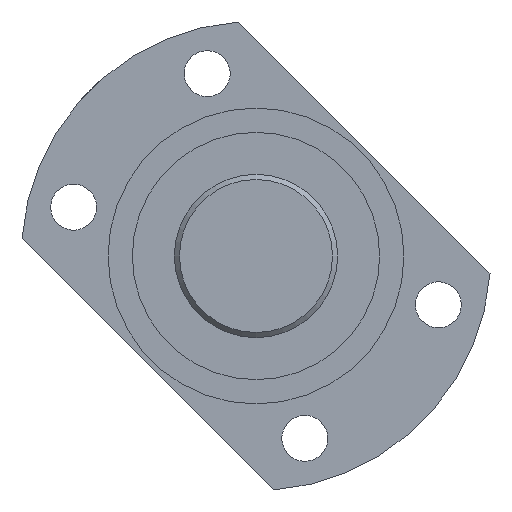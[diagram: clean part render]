
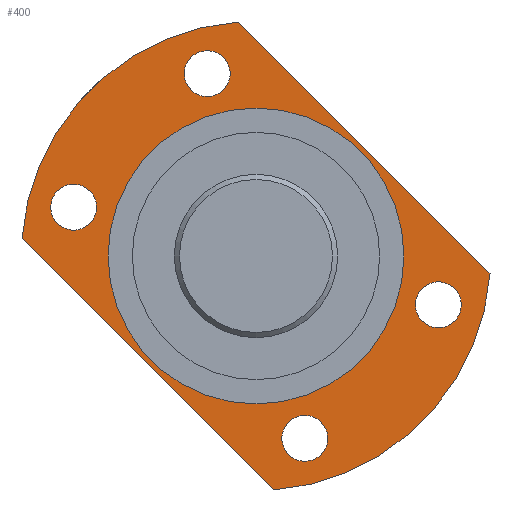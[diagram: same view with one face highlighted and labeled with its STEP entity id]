
A CAD part, left-side view. The second image highlights one B-rep face of the part: STEP entity #400.
In plain terms, the highlighted planar face has unit normal (-1, 0, 0).
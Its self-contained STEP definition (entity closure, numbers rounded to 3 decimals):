
#10 = FACE_BOUND ( 'NONE', #1527, .T. ) ;
#11 = CARTESIAN_POINT ( 'NONE',  ( 88.392, 78.542, 9.576 ) ) ;
#21 = CARTESIAN_POINT ( 'NONE',  ( 88.392, 36.408, -32.557 ) ) ;
#25 = PLANE ( 'NONE',  #1547 ) ;
#31 = VERTEX_POINT ( 'NONE', #325 ) ;
#125 = DIRECTION ( 'NONE',  ( 1., 0., 0. ) ) ;
#151 = VERTEX_POINT ( 'NONE', #766 ) ;
#152 = VERTEX_POINT ( 'NONE', #1225 ) ;
#166 = CIRCLE ( 'NONE', #216, 46. ) ;
#170 = EDGE_CURVE ( 'NONE', #152, #1557, #725, .T. ) ;
#173 = ORIENTED_EDGE ( 'NONE', *, *, #899, .T. ) ;
#216 = AXIS2_PLACEMENT_3D ( 'NONE', #244, #743, #1252 ) ;
#241 = EDGE_CURVE ( 'NONE', #729, #152, #166, .T. ) ;
#244 = CARTESIAN_POINT ( 'NONE',  ( 88.392, 42.803, 0. ) ) ;
#294 = EDGE_LOOP ( 'NONE', ( #1633 ) ) ;
#325 = CARTESIAN_POINT ( 'NONE',  ( 88.392, -3.068, -3.444 ) ) ;
#356 = DIRECTION ( 'NONE',  ( 1., 0., 0. ) ) ;
#377 = CARTESIAN_POINT ( 'NONE',  ( 88.392, 63.132, 20.329 ) ) ;
#380 = VERTEX_POINT ( 'NONE', #21 ) ;
#400 = ADVANCED_FACE ( 'NONE', ( #10, #673, #1014, #1512, #1291, #513 ), #25, .T. ) ;
#434 = EDGE_LOOP ( 'NONE', ( #927 ) ) ;
#445 = EDGE_CURVE ( 'NONE', #31, #729, #1274, .T. ) ;
#513 = FACE_BOUND ( 'NONE', #1154, .T. ) ;
#526 = CARTESIAN_POINT ( 'NONE',  ( 88.392, 81.724, 12.758 ) ) ;
#627 = CIRCLE ( 'NONE', #1031, 46. ) ;
#647 = EDGE_CURVE ( 'NONE', #982, #982, #1596, .T. ) ;
#673 = FACE_BOUND ( 'NONE', #1407, .T. ) ;
#706 = DIRECTION ( 'NONE',  ( 1., 0., 0. ) ) ;
#716 = CARTESIAN_POINT ( 'NONE',  ( 88.392, 46.247, 45.871 ) ) ;
#725 = LINE ( 'NONE', #1381, #968 ) ;
#729 = VERTEX_POINT ( 'NONE', #716 ) ;
#743 = DIRECTION ( 'NONE',  ( -1., 0., 0. ) ) ;
#766 = CARTESIAN_POINT ( 'NONE',  ( 88.392, 55.561, 38.921 ) ) ;
#769 = ORIENTED_EDGE ( 'NONE', *, *, #647, .T. ) ;
#774 = CARTESIAN_POINT ( 'NONE',  ( 88.392, 42.803, 0. ) ) ;
#782 = DIRECTION ( 'NONE',  ( -1., 0., 0. ) ) ;
#793 = EDGE_CURVE ( 'NONE', #1557, #31, #627, .T. ) ;
#826 = CIRCLE ( 'NONE', #1310, 4.5 ) ;
#863 = VECTOR ( 'NONE', #1406, 1000. ) ;
#869 = CIRCLE ( 'NONE', #1077, 4.5 ) ;
#870 = DIRECTION ( 'NONE',  ( 0., 0.707, 0.707 ) ) ;
#871 = EDGE_CURVE ( 'NONE', #1279, #1279, #869, .T. ) ;
#874 = DIRECTION ( 'NONE',  ( 0., 0.707, 0.707 ) ) ;
#881 = DIRECTION ( 'NONE',  ( 0., 0.707, 0.707 ) ) ;
#895 = AXIS2_PLACEMENT_3D ( 'NONE', #1241, #1342, #963 ) ;
#899 = EDGE_CURVE ( 'NONE', #151, #151, #1528, .T. ) ;
#927 = ORIENTED_EDGE ( 'NONE', *, *, #1168, .T. ) ;
#963 = DIRECTION ( 'NONE',  ( 0., 0., 1. ) ) ;
#968 = VECTOR ( 'NONE', #1129, 1000. ) ;
#982 = VERTEX_POINT ( 'NONE', #1480 ) ;
#1014 = FACE_BOUND ( 'NONE', #294, .T. ) ;
#1030 = CARTESIAN_POINT ( 'NONE',  ( 88.392, 41.919, 41.543 ) ) ;
#1031 = AXIS2_PLACEMENT_3D ( 'NONE', #774, #782, #881 ) ;
#1035 = CARTESIAN_POINT ( 'NONE',  ( 88.392, 7.063, -9.576 ) ) ;
#1039 = DIRECTION ( 'NONE',  ( -1., 0., 0. ) ) ;
#1077 = AXIS2_PLACEMENT_3D ( 'NONE', #11, #125, #874 ) ;
#1104 = ORIENTED_EDGE ( 'NONE', *, *, #871, .T. ) ;
#1116 = DIRECTION ( 'NONE',  ( 0., 0.707, 0.707 ) ) ;
#1129 = DIRECTION ( 'NONE',  ( 0., -0.707, -0.707 ) ) ;
#1153 = CARTESIAN_POINT ( 'NONE',  ( 88.392, 10.245, -6.394 ) ) ;
#1154 = EDGE_LOOP ( 'NONE', ( #769 ) ) ;
#1168 = EDGE_CURVE ( 'NONE', #380, #380, #1246, .T. ) ;
#1207 = ORIENTED_EDGE ( 'NONE', *, *, #241, .T. ) ;
#1225 = CARTESIAN_POINT ( 'NONE',  ( 88.392, 88.674, 3.444 ) ) ;
#1241 = CARTESIAN_POINT ( 'NONE',  ( 88.392, 42.803, 0. ) ) ;
#1246 = CIRCLE ( 'NONE', #1397, 4.5 ) ;
#1249 = CARTESIAN_POINT ( 'NONE',  ( 88.392, 52.379, 35.739 ) ) ;
#1252 = DIRECTION ( 'NONE',  ( 0., 0.707, 0.707 ) ) ;
#1256 = EDGE_LOOP ( 'NONE', ( #1563, #1488, #1324, #1207 ) ) ;
#1274 = LINE ( 'NONE', #1030, #863 ) ;
#1279 = VERTEX_POINT ( 'NONE', #526 ) ;
#1291 = FACE_BOUND ( 'NONE', #434, .T. ) ;
#1310 = AXIS2_PLACEMENT_3D ( 'NONE', #1035, #706, #1591 ) ;
#1324 = ORIENTED_EDGE ( 'NONE', *, *, #445, .T. ) ;
#1338 = CARTESIAN_POINT ( 'NONE',  ( 88.392, 39.358, -45.871 ) ) ;
#1339 = AXIS2_PLACEMENT_3D ( 'NONE', #1249, #1627, #1116 ) ;
#1342 = DIRECTION ( 'NONE',  ( 1., 0., 0. ) ) ;
#1381 = CARTESIAN_POINT ( 'NONE',  ( 88.392, 84.345, -0.884 ) ) ;
#1397 = AXIS2_PLACEMENT_3D ( 'NONE', #1636, #356, #870 ) ;
#1399 = DIRECTION ( 'NONE',  ( 0., 0., 1. ) ) ;
#1406 = DIRECTION ( 'NONE',  ( 0., 0.707, 0.707 ) ) ;
#1407 = EDGE_LOOP ( 'NONE', ( #173 ) ) ;
#1408 = EDGE_CURVE ( 'NONE', #1549, #1549, #826, .T. ) ;
#1480 = CARTESIAN_POINT ( 'NONE',  ( 88.392, 42.803, 29. ) ) ;
#1488 = ORIENTED_EDGE ( 'NONE', *, *, #793, .T. ) ;
#1512 = FACE_OUTER_BOUND ( 'NONE', #1256, .T. ) ;
#1527 = EDGE_LOOP ( 'NONE', ( #1104 ) ) ;
#1528 = CIRCLE ( 'NONE', #1339, 4.5 ) ;
#1547 = AXIS2_PLACEMENT_3D ( 'NONE', #377, #1039, #1399 ) ;
#1549 = VERTEX_POINT ( 'NONE', #1153 ) ;
#1557 = VERTEX_POINT ( 'NONE', #1338 ) ;
#1563 = ORIENTED_EDGE ( 'NONE', *, *, #170, .T. ) ;
#1591 = DIRECTION ( 'NONE',  ( 0., 0.707, 0.707 ) ) ;
#1596 = CIRCLE ( 'NONE', #895, 29. ) ;
#1627 = DIRECTION ( 'NONE',  ( 1., 0., 0. ) ) ;
#1633 = ORIENTED_EDGE ( 'NONE', *, *, #1408, .T. ) ;
#1636 = CARTESIAN_POINT ( 'NONE',  ( 88.392, 33.226, -35.739 ) ) ;
